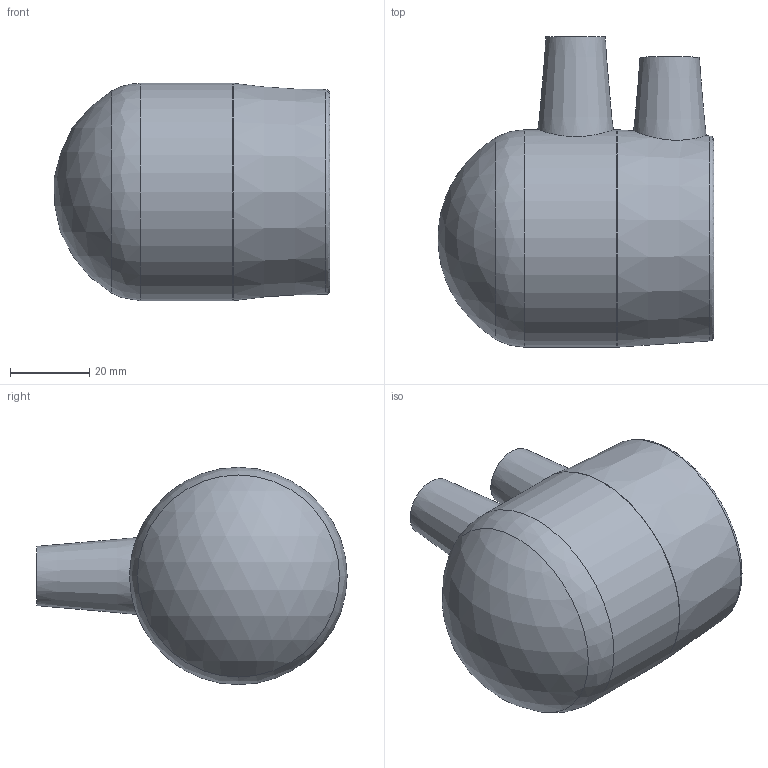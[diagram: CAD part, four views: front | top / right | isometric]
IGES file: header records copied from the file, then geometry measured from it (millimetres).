
Global section: file name: 494204040.ipt; native system: Autodesk Inventor 2015; preprocessor: unknown; author: Кирилл,,11,0; organization: 20170630.203301; date: 20171106.094138; units: millimetre
Bounding box: 69.8 x 78.5 x 55 mm (x, y, z)
Volume: 79957.3 mm3; surface area: 24458.7 mm2
Topology: 1 solids, 1 shells, 45 faces, 111 edges, 74 vertices
Faces by surface type: plane 24, revolution 14, cylinder 3, cone 3, sphere 1
Full cylindrical faces by diameter (mm): 4 x2, 55 x1
